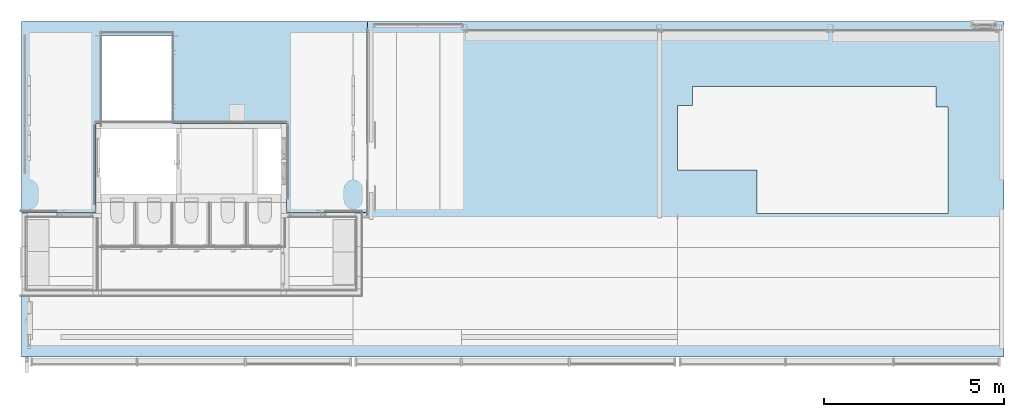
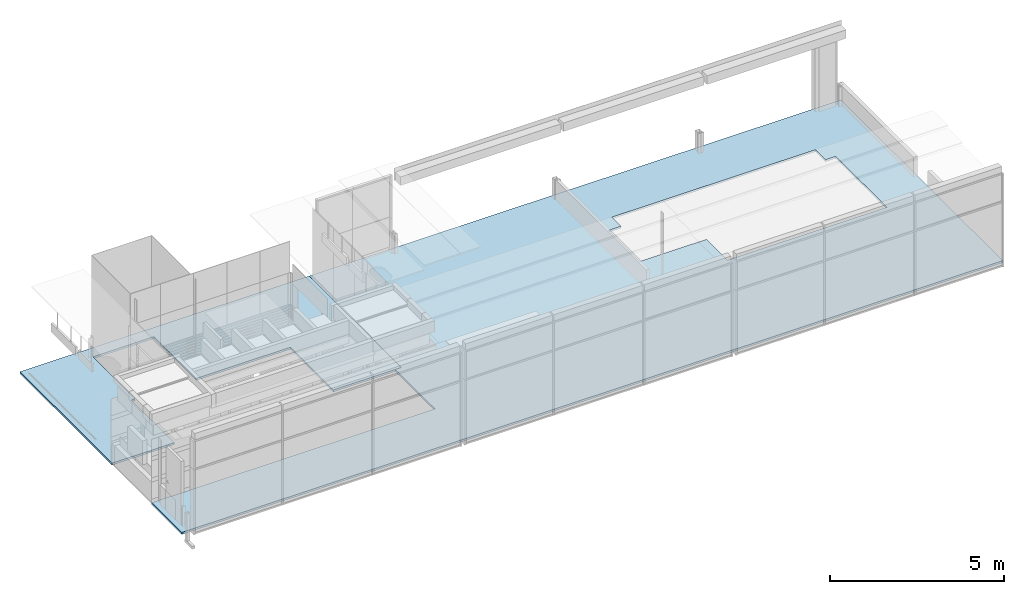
# One storey, part 18 of 26: 2 slabs.
"""IFC2X3 building model written with IfcOpenShell, lengths in millimetres."""

from ifc_helpers import new_model, entity, si_unit, converted_unit, derived_unit, direction, frame, origin_with_axes, place, context, subcontext, project, spatial, faceted_brep, material, layer, layer_set, type_object, element, save


model = new_model("IFC2X3")

# Units and contexts
model_context = context("Model", 3, precision=0.01, world=frame((0.0, 4.29681676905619e-09, 0.0)), true_north=direction((4.01073788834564e-13, 1.0)))
plan_context = context("Plan", 3, precision=0.01, world=frame((0.0, 4.29681676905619e-09, 0.0)), true_north=direction((4.01073788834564e-13, 1.0)))
body_context = subcontext(model_context, "Body", "Model", "MODEL_VIEW")
ifc_project = project(units=[converted_unit("PLANEANGLEUNIT", "DEGREE", entity("IfcPositiveLengthMeasure", 0.0174532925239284), si_unit("PLANEANGLEUNIT", "RADIAN"), dimensions=[0, 0, 0, 0, 0, 0, 0]), si_unit("AREAUNIT", "SQUARE_METRE"), si_unit("LENGTHUNIT", "METRE", prefix="MILLI"), si_unit("MASSUNIT", "GRAM", prefix="KILO"), si_unit("POWERUNIT", "WATT"), si_unit("PRESSUREUNIT", "PASCAL", prefix="KILO"), si_unit("FORCEUNIT", "NEWTON", prefix="KILO"), si_unit("ELECTRICVOLTAGEUNIT", "VOLT"), si_unit("ELECTRICCURRENTUNIT", "AMPERE"), si_unit("THERMODYNAMICTEMPERATUREUNIT", "DEGREE_CELSIUS"), si_unit("TIMEUNIT", "SECOND"), si_unit("VOLUMEUNIT", "CUBIC_METRE"), derived_unit("LINEARVELOCITYUNIT", [(si_unit("LENGTHUNIT", "METRE"), 1), (si_unit("TIMEUNIT", "SECOND"), -1)]), derived_unit("VOLUMETRICFLOWRATEUNIT", [(si_unit("VOLUMEUNIT", "CUBIC_METRE"), 1), (si_unit("TIMEUNIT", "SECOND"), -1)]), derived_unit("THERMALTRANSMITTANCEUNIT", [(si_unit("POWERUNIT", "WATT"), 1), (si_unit("THERMODYNAMICTEMPERATUREUNIT", "KELVIN"), -1), (si_unit("AREAUNIT", "SQUARE_METRE"), -1)]), derived_unit("SOUNDPRESSUREUNIT", [(si_unit("PRESSUREUNIT", "PASCAL"), 1)])], contexts=[model_context, plan_context])

# Site, building, storey
site_placement = place(None, origin_with_axes())
site = spatial("IfcSite", under=ifc_project, at=site_placement, Name="ENGM", CompositionType="ELEMENT")
building_placement = place(site_placement, origin_with_axes())
building = spatial("IfcBuilding", under=site, at=building_placement, Name="TG", CompositionType="ELEMENT")
storey_placement = place(building_placement, frame((0.0, 0.0, 210200.0), z_axis=(0.0, 0.0, 1.0), x_axis=(1.0, 0.0, 0.0)))
storey = spatial("IfcBuildingStorey", under=building, at=storey_placement, Name="Nivå F - 0,7 m", CompositionType="ELEMENT", Elevation=210200.0)

# Slabs
ifc_material = material(Name="T2 - Dekke uten skravur")
ifc_layer_1 = layer(ifc_material, 70.0)
ifc_layer_set_1 = layer_set([ifc_layer_1], Name="Floor:A254  - Gulvoppbygging m_f.o - 70mm - stein")
slab_type_1 = type_object("IfcSlabType", Name="Floor:A254  - Gulvoppbygging m_f.o - 70mm - stein", PredefinedType="FLOOR", material=ifc_layer_set_1)
slab_1_placement = place(storey_placement, origin_with_axes())
element("IfcSlab", 1, at=slab_1_placement, inside=storey, type_object=slab_type_1, Name="Floor:A254  - Gulvoppbygging m_f.o - 70mm - stein", ObjectType="Floor:A254  - Gulvoppbygging m_f.o - 70mm - stein", PredefinedType="FLOOR", context=body_context, shape_type="Brep", body=[
    faceted_brep([(331400.0, 467499.999999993, 0.0), (331400.0, 467499.999999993, -69.9999999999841), (331400.0, 462199.999999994, -69.9999999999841), (331400.0, 462199.999999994, 0.0), (329143.75, 462199.999999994, -69.9999999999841), (329143.75, 462199.999999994, 0.0), (329143.749999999, 464673.750000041, -69.9999999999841), (329143.749999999, 464673.750000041, 0.0), (326012.12499998, 464673.75000004, -69.9999999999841), (326012.12499998, 464673.75000004, 0.0), (326012.12499998, 467095.000000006, -69.9999999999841), (326012.12499998, 467095.000000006, 0.0), (323989.19999998, 467095.000000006, -69.9999999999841), (323989.19999998, 467095.000000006, 0.0), (323989.19999998, 464673.750000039, -69.9999999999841), (323989.19999998, 464673.750000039, 0.0), (323860.249999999, 464673.750000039, -69.9999999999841), (323860.249999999, 464673.750000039, 0.0), (323860.249999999, 462199.999999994, -69.9999999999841), (323860.249999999, 462199.999999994, 0.0), (321794.750000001, 462199.999999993, -69.9999999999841), (321794.750000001, 462199.999999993, 0.0), (321794.750000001, 467499.999999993, -1.13686837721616e-13), (321794.750000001, 467499.999999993, -69.999999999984)], [[[0, 1, 2, 3]], [[3, 2, 4, 5]], [[5, 4, 6, 7]], [[7, 6, 8, 9]], [[9, 8, 10, 11]], [[11, 10, 12, 13]], [[13, 12, 14, 15]], [[15, 14, 16, 17]], [[17, 16, 18, 19]], [[20, 21, 19, 18]], [[21, 22, 0, 3, 5, 7, 9, 11, 13, 15, 17, 19]], [[1, 23, 20, 18, 16, 14, 12, 10, 8, 6, 4, 2]], [[23, 1, 0, 22]], [[22, 21, 20, 23]]], orient=[[False], [False], [False], [False], [False], [False], [False], [False], [False], [False], [False], [False], [False], [False]]),
])
ifc_layer_2 = layer(ifc_material, 70.0)
ifc_layer_set_2 = layer_set([ifc_layer_2], Name="Floor:A254  - Gulvoppbygging m_f.o - 70mm - tre")
slab_type_2 = type_object("IfcSlabType", Name="Floor:A254  - Gulvoppbygging m_f.o - 70mm - tre", PredefinedType="FLOOR", material=ifc_layer_set_2)
slab_2_placement = place(storey_placement, frame((186565.275000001, 457992.99451661, -70.0), z_axis=(0.0, 0.0, 1.0), x_axis=(1.0, 0.0, 0.0)))
element("IfcSlab", 2, at=slab_2_placement, inside=storey, type_object=slab_type_2, Name="Floor:A254  - Gulvoppbygging m_f.o - 70mm - tre:2", ObjectType="Floor:A254  - Gulvoppbygging m_f.o - 70mm - tre", PredefinedType="FLOOR", context=body_context, shape_type="Brep", body=[
    faceted_brep([(162499.225, 197.005483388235, 70.0), (162499.225, 197.005483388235, 1.59161572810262e-11), (135229.475000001, 197.00548338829, 1.59161572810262e-11), (135229.475000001, 197.00548338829, 70.0), (135229.475, 1930.60548343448, 70.0), (135229.475, 1930.60548343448, 1.59161572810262e-11), (144633.724999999, 1930.60548343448, 1.59161572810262e-11), (144633.724999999, 1930.60548343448, 70.0), (144633.725, 4207.00548338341, 1.59161572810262e-11), (144633.725, 4207.00548338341, 70.0), (144834.724999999, 4207.00548338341, 1.59161572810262e-11), (144834.724999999, 4207.00548338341, 70.0), (144834.724999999, 9507.00548338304, 1.59161572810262e-11), (144834.724999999, 9507.00548338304, 70.0), (162499.225, 9507.00548338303, 1.60298441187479e-11), (162499.225, 9507.00548338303, 69.9999999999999), (160949.72499998, 4182.00548339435, 70.0), (160949.72499998, 7130.51798339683, 70.0), (160606.72499998, 7130.51798339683, 70.0), (160606.72499998, 7707.00548339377, 70.0), (153847.72499998, 7707.00548339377, 70.0), (153847.72499998, 7182.00548339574, 70.0), (153434.725000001, 7182.00548339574, 70.0), (153434.725000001, 5382.00548339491, 70.0), (155647.72499998, 5382.00548339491, 70.0), (155647.72499998, 4182.00548339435, 70.0), (153434.725000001, 5382.00548339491, 1.59161572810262e-11), (153434.725000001, 7182.00548339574, 1.59161572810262e-11), (153847.72499998, 7182.00548339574, 1.59161572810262e-11), (153847.72499998, 7707.00548339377, 1.59161572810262e-11), (160606.72499998, 7707.00548339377, 1.59161572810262e-11), (160606.72499998, 7130.51798339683, 1.59161572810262e-11), (160949.72499998, 7130.51798339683, 1.59161572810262e-11), (160949.72499998, 4182.00548339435, 1.59161572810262e-11), (155647.72499998, 4182.00548339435, 1.59161572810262e-11), (155647.72499998, 5382.00548339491, 1.59161572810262e-11)], [[[0, 1, 2, 3]], [[4, 5, 6, 7]], [[7, 6, 8, 9]], [[9, 8, 10, 11]], [[11, 10, 12, 13]], [[14, 15, 13, 12]], [[3, 4, 7, 9, 11, 13, 15, 0], [16, 17, 18, 19, 20, 21, 22, 23, 24, 25]], [[1, 14, 12, 10, 8, 6, 5, 2], [26, 27, 28, 29, 30, 31, 32, 33, 34, 35]], [[24, 35, 34, 25]], [[23, 26, 35, 24]], [[22, 27, 26, 23]], [[21, 28, 27, 22]], [[20, 29, 28, 21]], [[19, 30, 29, 20]], [[18, 31, 30, 19]], [[17, 32, 31, 18]], [[16, 33, 32, 17]], [[25, 34, 33, 16]], [[14, 1, 0, 15]], [[5, 4, 3, 2]]], orient=[[False], [False], [False], [False], [False], [False], [False, False], [False, False], [False], [False], [False], [False], [False], [False], [False], [False], [False], [False], [False], [False]]),
])

save(model, "model.ifc")
